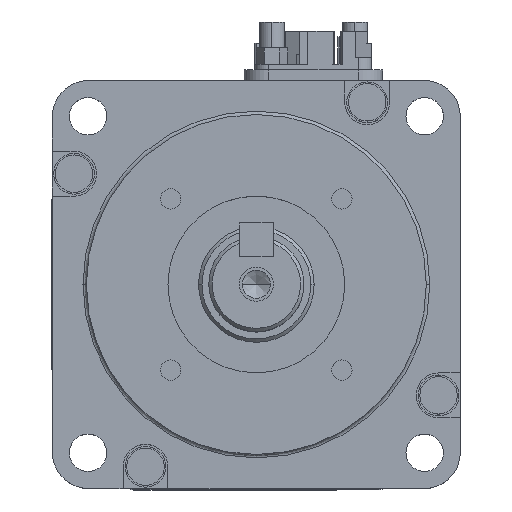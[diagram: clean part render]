
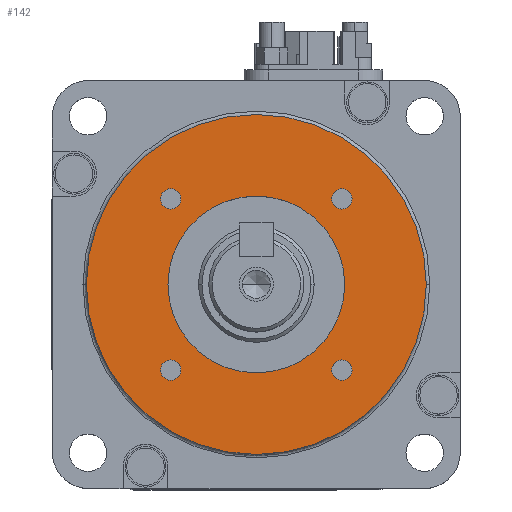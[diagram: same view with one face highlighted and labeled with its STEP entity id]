
A CAD part, top view. The second image highlights one B-rep face of the part: STEP entity #142.
In plain terms, the highlighted planar face has unit normal (0, 0, 1).
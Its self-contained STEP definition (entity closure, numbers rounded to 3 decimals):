
#142=ADVANCED_FACE('',(#955,#956,#957,#958,#959,#960),#954,.T.);
#954=PLANE('',#6222);
#955=FACE_OUTER_BOUND('',#6223,.T.);
#956=FACE_BOUND('',#6224,.T.);
#957=FACE_BOUND('',#6225,.T.);
#958=FACE_BOUND('',#6226,.T.);
#959=FACE_BOUND('',#6227,.T.);
#960=FACE_BOUND('',#6228,.T.);
#6219=CARTESIAN_POINT('',(-57.5,-51.962,3.));
#6220=DIRECTION('',(0.,0.,1.));
#6221=DIRECTION('',(1.,0.,0.));
#6222=AXIS2_PLACEMENT_3D('',#6219,#6220,#6221);
#6223=EDGE_LOOP('',(#9089,#9090));
#6224=EDGE_LOOP('',(#9091,#9092));
#6225=EDGE_LOOP('',(#9093,#9094));
#6226=EDGE_LOOP('',(#9095,#9096));
#6227=EDGE_LOOP('',(#9097,#9098));
#6228=EDGE_LOOP('',(#9099,#9100));
#9089=ORIENTED_EDGE('',*,*,#11880,.T.);
#9090=ORIENTED_EDGE('',*,*,#11881,.T.);
#9091=ORIENTED_EDGE('',*,*,#11882,.F.);
#9092=ORIENTED_EDGE('',*,*,#11883,.F.);
#9093=ORIENTED_EDGE('',*,*,#11884,.F.);
#9094=ORIENTED_EDGE('',*,*,#11885,.F.);
#9095=ORIENTED_EDGE('',*,*,#11886,.F.);
#9096=ORIENTED_EDGE('',*,*,#11887,.F.);
#9097=ORIENTED_EDGE('',*,*,#11888,.F.);
#9098=ORIENTED_EDGE('',*,*,#11889,.F.);
#9099=ORIENTED_EDGE('',*,*,#11890,.F.);
#9100=ORIENTED_EDGE('',*,*,#11891,.F.);
#11880=EDGE_CURVE('',#14484,#14485,#14486,.T.);
#11881=EDGE_CURVE('',#14485,#14484,#14492,.T.);
#11882=EDGE_CURVE('',#14498,#14499,#14500,.T.);
#11883=EDGE_CURVE('',#14499,#14498,#14506,.T.);
#11884=EDGE_CURVE('',#14512,#14513,#14514,.T.);
#11885=EDGE_CURVE('',#14513,#14512,#14520,.T.);
#11886=EDGE_CURVE('',#14526,#14527,#14528,.T.);
#11887=EDGE_CURVE('',#14527,#14526,#14534,.T.);
#11888=EDGE_CURVE('',#14540,#14541,#14542,.T.);
#11889=EDGE_CURVE('',#14541,#14540,#14548,.T.);
#11890=EDGE_CURVE('',#14554,#14555,#14556,.T.);
#11891=EDGE_CURVE('',#14555,#14554,#14562,.T.);
#14484=VERTEX_POINT('',#23298);
#14485=VERTEX_POINT('',#23299);
#14486=CIRCLE('',#23303,25.);
#14492=CIRCLE('',#23307,25.);
#14498=VERTEX_POINT('',#23308);
#14499=VERTEX_POINT('',#23309);
#14500=CIRCLE('',#23313,1.5);
#14506=CIRCLE('',#23317,1.5);
#14512=VERTEX_POINT('',#23318);
#14513=VERTEX_POINT('',#23319);
#14514=CIRCLE('',#23323,1.5);
#14520=CIRCLE('',#23327,1.5);
#14526=VERTEX_POINT('',#23328);
#14527=VERTEX_POINT('',#23329);
#14528=CIRCLE('',#23333,1.5);
#14534=CIRCLE('',#23337,1.5);
#14540=VERTEX_POINT('',#23338);
#14541=VERTEX_POINT('',#23339);
#14542=CIRCLE('',#23343,1.5);
#14548=CIRCLE('',#23347,1.5);
#14554=VERTEX_POINT('',#23348);
#14555=VERTEX_POINT('',#23349);
#14556=CIRCLE('',#23353,13.);
#14562=CIRCLE('',#23357,13.);
#23298=CARTESIAN_POINT('',(25.,0.,3.));
#23299=CARTESIAN_POINT('',(-25.,0.,3.));
#23300=CARTESIAN_POINT('',(0.,0.,3.));
#23301=DIRECTION('',(0.,0.,1.));
#23302=DIRECTION('',(1.,0.,0.));
#23303=AXIS2_PLACEMENT_3D('',#23300,#23301,#23302);
#23304=CARTESIAN_POINT('',(0.,0.,3.));
#23305=DIRECTION('',(0.,0.,1.));
#23306=DIRECTION('',(1.,0.,0.));
#23307=AXIS2_PLACEMENT_3D('',#23304,#23305,#23306);
#23308=CARTESIAN_POINT('',(14.087,-12.587,3.));
#23309=CARTESIAN_POINT('',(11.087,-12.587,3.));
#23310=CARTESIAN_POINT('',(12.587,-12.587,3.));
#23311=DIRECTION('',(0.,0.,1.));
#23312=DIRECTION('',(-1.,0.,0.));
#23313=AXIS2_PLACEMENT_3D('',#23310,#23311,#23312);
#23314=CARTESIAN_POINT('',(12.587,-12.587,3.));
#23315=DIRECTION('',(0.,0.,1.));
#23316=DIRECTION('',(-1.,0.,0.));
#23317=AXIS2_PLACEMENT_3D('',#23314,#23315,#23316);
#23318=CARTESIAN_POINT('',(-11.087,-12.587,3.));
#23319=CARTESIAN_POINT('',(-14.087,-12.587,3.));
#23320=CARTESIAN_POINT('',(-12.587,-12.587,3.));
#23321=DIRECTION('',(0.,0.,1.));
#23322=DIRECTION('',(-1.,0.,0.));
#23323=AXIS2_PLACEMENT_3D('',#23320,#23321,#23322);
#23324=CARTESIAN_POINT('',(-12.587,-12.587,3.));
#23325=DIRECTION('',(0.,0.,1.));
#23326=DIRECTION('',(-1.,0.,0.));
#23327=AXIS2_PLACEMENT_3D('',#23324,#23325,#23326);
#23328=CARTESIAN_POINT('',(-11.087,12.587,3.));
#23329=CARTESIAN_POINT('',(-14.087,12.587,3.));
#23330=CARTESIAN_POINT('',(-12.587,12.587,3.));
#23331=DIRECTION('',(0.,0.,1.));
#23332=DIRECTION('',(-1.,0.,0.));
#23333=AXIS2_PLACEMENT_3D('',#23330,#23331,#23332);
#23334=CARTESIAN_POINT('',(-12.587,12.587,3.));
#23335=DIRECTION('',(0.,0.,1.));
#23336=DIRECTION('',(-1.,0.,0.));
#23337=AXIS2_PLACEMENT_3D('',#23334,#23335,#23336);
#23338=CARTESIAN_POINT('',(14.087,12.587,3.));
#23339=CARTESIAN_POINT('',(11.087,12.587,3.));
#23340=CARTESIAN_POINT('',(12.587,12.587,3.));
#23341=DIRECTION('',(0.,0.,1.));
#23342=DIRECTION('',(-1.,0.,0.));
#23343=AXIS2_PLACEMENT_3D('',#23340,#23341,#23342);
#23344=CARTESIAN_POINT('',(12.587,12.587,3.));
#23345=DIRECTION('',(0.,0.,1.));
#23346=DIRECTION('',(-1.,0.,0.));
#23347=AXIS2_PLACEMENT_3D('',#23344,#23345,#23346);
#23348=CARTESIAN_POINT('',(13.,0.,3.));
#23349=CARTESIAN_POINT('',(-13.,0.,3.));
#23350=CARTESIAN_POINT('',(0.,0.,3.));
#23351=DIRECTION('',(0.,0.,1.));
#23352=DIRECTION('',(-1.,0.,0.));
#23353=AXIS2_PLACEMENT_3D('',#23350,#23351,#23352);
#23354=CARTESIAN_POINT('',(0.,0.,3.));
#23355=DIRECTION('',(0.,0.,1.));
#23356=DIRECTION('',(-1.,0.,0.));
#23357=AXIS2_PLACEMENT_3D('',#23354,#23355,#23356);
